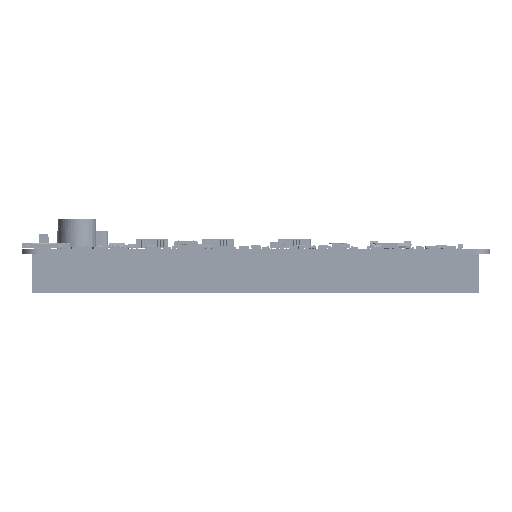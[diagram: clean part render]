
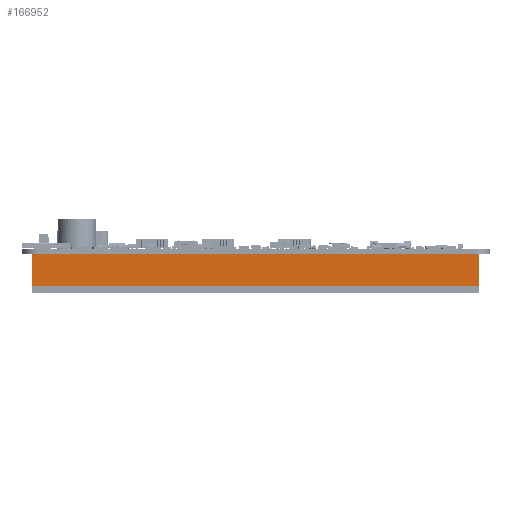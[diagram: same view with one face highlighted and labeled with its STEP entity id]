
A CAD part, left-side view. The second image highlights one B-rep face of the part: STEP entity #166952.
In plain terms, the highlighted planar face has unit normal (-1, 0, 0) as drawn and (0, 0, -1) by its records, which use the part's own axes.
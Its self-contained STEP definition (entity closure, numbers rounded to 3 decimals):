
#15544=FACE_OUTER_BOUND('',#24539,.T.);
#24539=EDGE_LOOP('',(#146125,#146126,#146127,#146128));
#45123=LINE('',#306254,#63338);
#45127=LINE('',#306261,#63342);
#45128=LINE('',#306264,#63343);
#45129=LINE('',#306265,#63344);
#63338=VECTOR('',#222072,10.);
#63342=VECTOR('',#222078,10.);
#63343=VECTOR('',#222081,10.);
#63344=VECTOR('',#222082,10.);
#78487=VERTEX_POINT('',#306251);
#78488=VERTEX_POINT('',#306253);
#78490=VERTEX_POINT('',#306259);
#78491=VERTEX_POINT('',#306263);
#101148=EDGE_CURVE('',#78487,#78488,#45123,.T.);
#101152=EDGE_CURVE('',#78490,#78487,#45127,.T.);
#101153=EDGE_CURVE('',#78491,#78490,#45128,.T.);
#101154=EDGE_CURVE('',#78491,#78488,#45129,.T.);
#146125=ORIENTED_EDGE('',*,*,#101152,.F.);
#146126=ORIENTED_EDGE('',*,*,#101153,.F.);
#146127=ORIENTED_EDGE('',*,*,#101154,.T.);
#146128=ORIENTED_EDGE('',*,*,#101148,.F.);
#154467=PLANE('',#181963);
#166952=ADVANCED_FACE('',(#15544),#154467,.T.);
#181963=AXIS2_PLACEMENT_3D('',#306262,#222079,#222080);
#222072=DIRECTION('',(1.,0.,0.));
#222078=DIRECTION('',(0.,-1.,0.));
#222079=DIRECTION('center_axis',(0.,0.,-1.));
#222080=DIRECTION('ref_axis',(-1.,0.,0.));
#222081=DIRECTION('',(-1.,0.,0.));
#222082=DIRECTION('',(0.,-1.,0.));
#306251=CARTESIAN_POINT('',(-142.2,-5.1,-184.));
#306253=CARTESIAN_POINT('',(0.,-5.1,-184.));
#306254=CARTESIAN_POINT('',(-142.2,-5.1,-184.));
#306259=CARTESIAN_POINT('',(-142.2,5.1,-184.));
#306261=CARTESIAN_POINT('',(-142.2,0.,-184.));
#306262=CARTESIAN_POINT('Origin',(0.,0.,-184.));
#306263=CARTESIAN_POINT('',(0.,5.1,-184.));
#306264=CARTESIAN_POINT('',(-142.2,5.1,-184.));
#306265=CARTESIAN_POINT('',(0.,0.,-184.));
